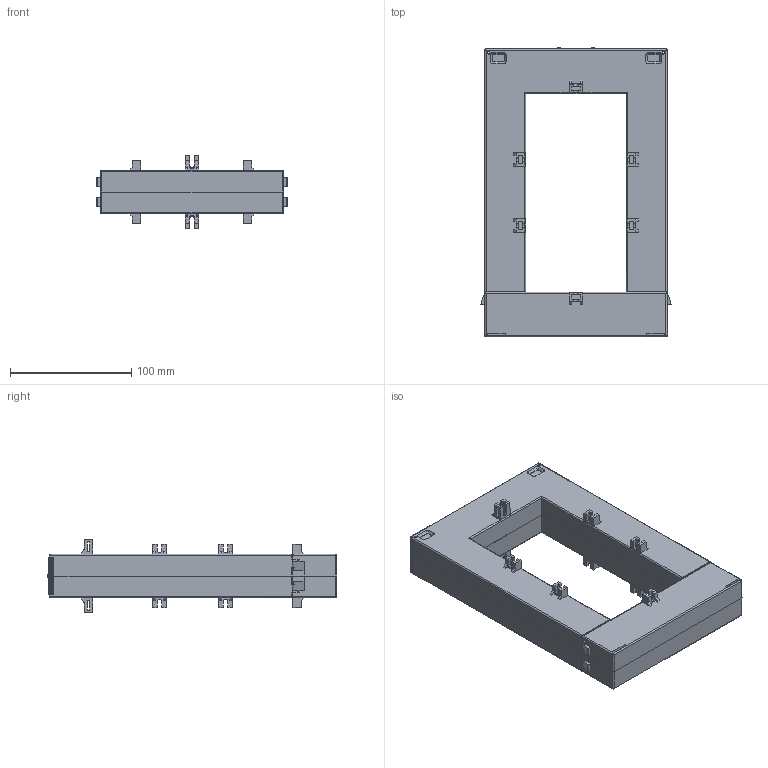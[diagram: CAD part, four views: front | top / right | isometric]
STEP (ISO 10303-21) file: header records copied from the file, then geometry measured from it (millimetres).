
FILE_DESCRIPTION(/* description */ (''),/* implementation_level */ '2;1');
FILE_NAME(/* name */ 'TA160P.step',/* time_stamp */ '2025-12-15T10:07:34+01:00',/* author */ (''),/* organization */ (''),/* preprocessor_version */ 'ST-DEVELOPER v20.1',/* originating_system */ 'Autodesk Translation Framework v14.21.0.0',/* authorisation */ '');
FILE_SCHEMA (('AUTOMOTIVE_DESIGN { 1 0 10303 214 3 1 1 }'));
Length unit declared in the file: millimetre
Products named in the file (1): TA160P
Bounding box: 157.07 x 238.75 x 60.2 mm (x, y, z)
Volume: 218749.3 mm3; surface area: 203932.4 mm2
Topology: 7 solids, 7 shells, 1252 faces, 3514 edges, 2308 vertices
Faces by surface type: plane 998, cylinder 210, cone 32, bspline 12
Full cylindrical faces by diameter (mm): 0.8 x4, 1.006 x4, 1.3 x4, 2.7 x2, 4.008 x4
Entity records: 40962 total; most frequent: CARTESIAN_POINT 8259, ORIENTED_EDGE 7012, DIRECTION 6424, EDGE_CURVE 3506, LINE 2990, VECTOR 2990, VERTEX_POINT 2308, AXIS2_PLACEMENT_3D 1717
